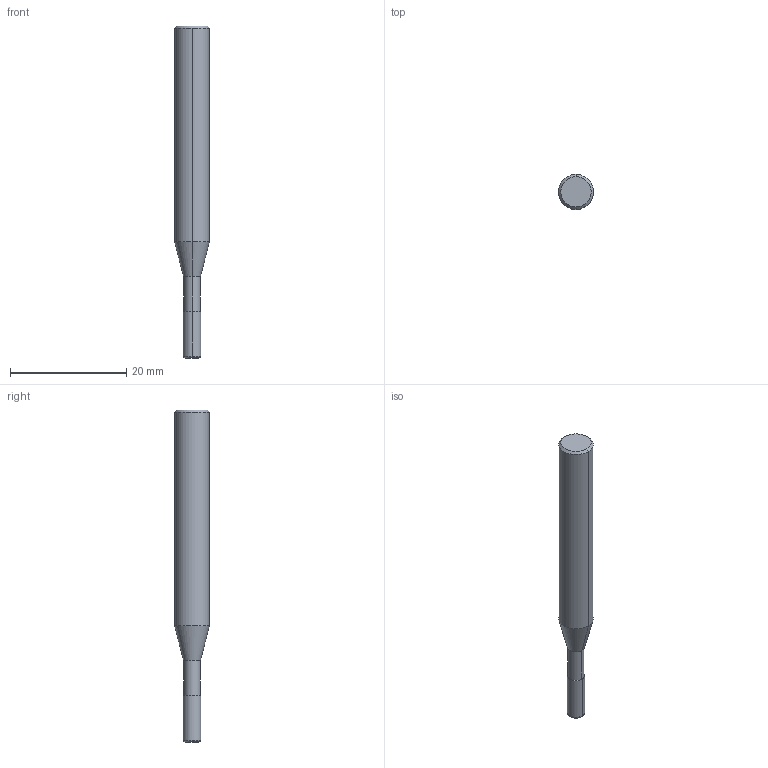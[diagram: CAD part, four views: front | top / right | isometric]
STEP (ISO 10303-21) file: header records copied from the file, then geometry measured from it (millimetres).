
FILE_DESCRIPTION((''),'2;1');
FILE_NAME('DIN4003_82_HEURO','2019-04-10T15:43:25',('automd'),(''),'CREO PARAMETRIC BY PTC INC, 2018400','CREO PARAMETRIC BY PTC INC, 2018400','');
FILE_SCHEMA(('AUTOMOTIVE_DESIGN { 1 0 10303 214 1 1 1 1 }'));
Length unit declared in the file: millimetre
Products named in the file (1): DIN4003_82_HEURO
Bounding box: 6 x 6 x 57 mm (x, y, z)
Volume: 1237.8 mm3; surface area: 944.1 mm2
Topology: 1 solids, 1 shells, 15 faces, 31 edges, 20 vertices
Faces by surface type: bspline 15
Entity records: 958 total; most frequent: CARTESIAN_POINT 386, DIRECTION 80, ORIENTED_EDGE 56, AXIS2_PLACEMENT_3D 31, EDGE_CURVE 28, PRESENTATION_STYLE_ASSIGNMENT 27, STYLED_ITEM 27, COLOUR_RGB 19
